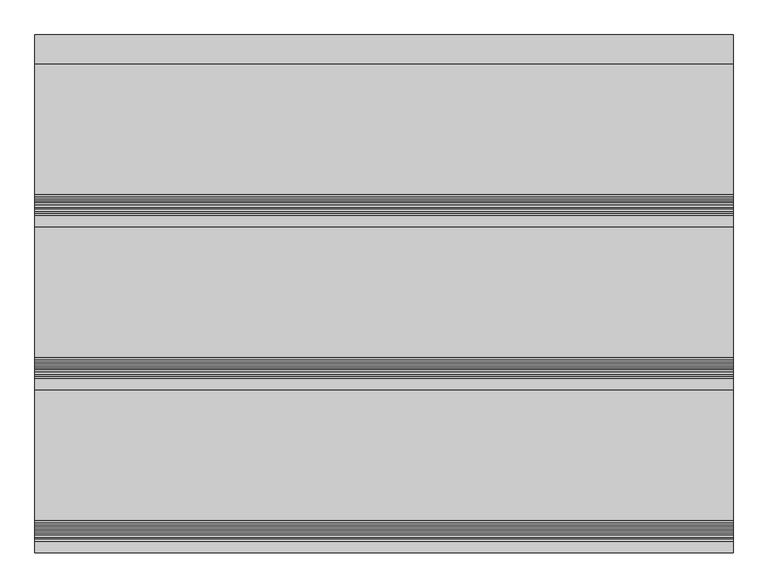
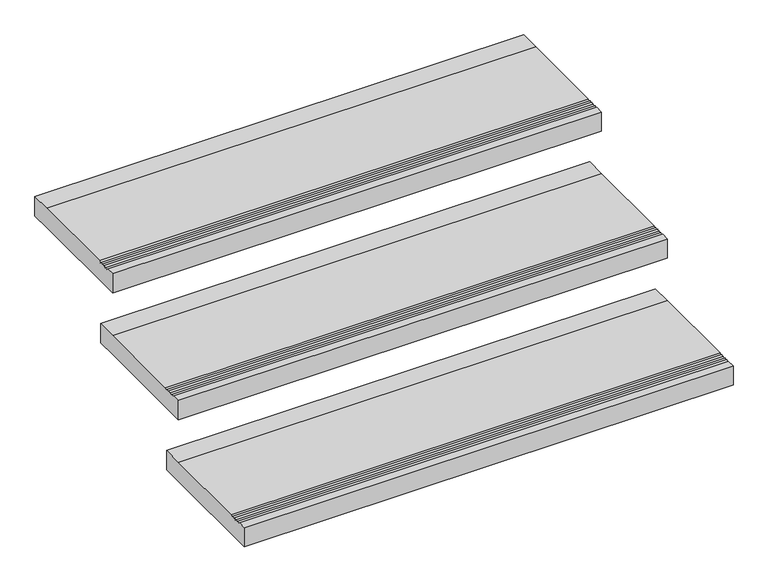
"""IFC4 building model written with IfcOpenShell, lengths in millimetres: stair flight geometry, Giron 30 mm nez de marche 20 mm."""

from ifc_helpers import new_model, si_unit, frame, origin, place, context, project, spatial, polyline, outline, extrude, source, transform, mapped, element, save


def stair_flight_fa331b75(model_context):
    return source(origin(), model_context, "Body", "SweptSolid", [
        extrude(outline(polyline([(1347.4239114, 2480.0), (1572.0685723, 2480.0), (1622.0685723, 2480.0), (1622.0685723, 2430.0), (1572.0685723, 2430.0), (1292.0685723, 2430.0), (1292.0685723, 2480.0), (1312.0685723, 2480.0), (1315.6041062, 2476.4644661), (1319.1396401, 2480.0), (1322.675174, 2476.4644661), (1326.2107079, 2480.0), (1329.7462418, 2476.4644661), (1333.2817757, 2480.0), (1336.8173096, 2476.4644661), (1340.3528435, 2480.0), (1343.8883774, 2476.4644661), (1347.4239114, 2480.0)])), frame((10693.2466393, 0.0, 0.0), z_axis=(1.0, 0.0, 0.0), x_axis=(0.0, 1.0, 0.0)), (0.0, 0.0, 1.0), 1200.0),
        extrude(outline(polyline([(1627.4239114, 2640.0), (1852.0685723, 2640.0), (1902.0685723, 2640.0), (1902.0685723, 2590.0), (1852.0685723, 2590.0), (1572.0685723, 2590.0), (1572.0685723, 2640.0), (1592.0685723, 2640.0), (1595.6041062, 2636.4644661), (1599.1396401, 2640.0), (1602.675174, 2636.4644661), (1606.2107079, 2640.0), (1609.7462418, 2636.4644661), (1613.2817757, 2640.0), (1616.8173096, 2636.4644661), (1620.3528435, 2640.0), (1623.8883774, 2636.4644661), (1627.4239114, 2640.0)])), frame((10693.2466393, 0.0, 0.0), z_axis=(1.0, 0.0, 0.0), x_axis=(0.0, 1.0, 0.0)), (0.0, 0.0, 1.0), 1200.0),
        extrude(outline(polyline([(1907.4239114, 2800.0), (2132.0685723, 2800.0), (2182.0685723, 2800.0), (2182.0685723, 2750.0), (2132.0685723, 2750.0), (1852.0685723, 2750.0), (1852.0685723, 2800.0), (1872.0685723, 2800.0), (1875.6041062, 2796.4644661), (1879.1396401, 2800.0), (1882.675174, 2796.4644661), (1886.2107079, 2800.0), (1889.7462418, 2796.4644661), (1893.2817757, 2800.0), (1896.8173096, 2796.4644661), (1900.3528435, 2800.0), (1903.8883774, 2796.4644661), (1907.4239114, 2800.0)])), frame((10693.2466393, 0.0, 0.0), z_axis=(1.0, 0.0, 0.0), x_axis=(0.0, 1.0, 0.0)), (0.0, 0.0, 1.0), 1200.0),
    ])


if __name__ == "__main__":
    model = new_model("IFC4")
    model_context = context("Model", 3, world=origin())
    ifc_project = project(units=[si_unit("LENGTHUNIT", "METRE", prefix="MILLI")], contexts=[model_context])
    site = spatial("IfcSite", under=ifc_project)
    building = spatial("IfcBuilding", under=site)
    placement = place(None, origin())
    stair_flight_shape = stair_flight_fa331b75(model_context)
    element("IfcStairFlight", 1, ObjectType="Giron 30 mm nez de marche 20 mm", at=placement, inside=building, context=model_context, shape_type="MappedRepresentation", body=[
        mapped(stair_flight_shape, transform((0.0, 0.0, 0.0), x_axis=(1.0, 0.0, 0.0), y_axis=(0.0, 1.0, 0.0), z_axis=(0.0, 0.0, 1.0))),
    ])
    save(model, "model.ifc")
